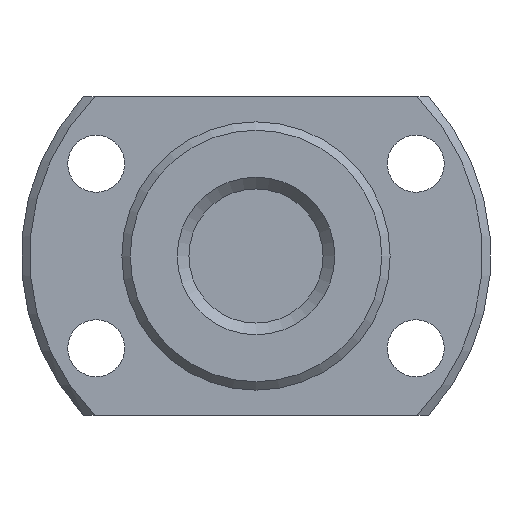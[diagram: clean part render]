
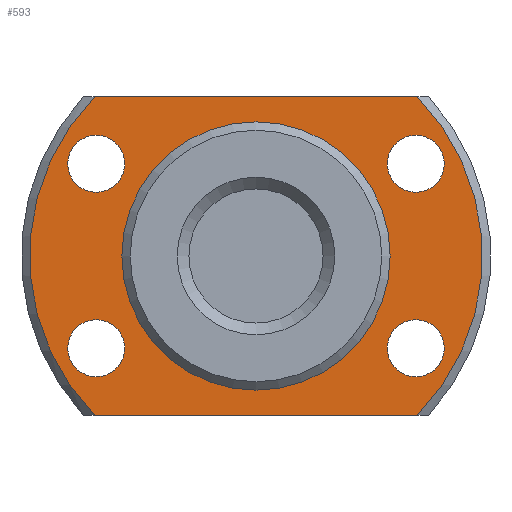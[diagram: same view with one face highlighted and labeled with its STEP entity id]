
A CAD part, left-side view. The second image highlights one B-rep face of the part: STEP entity #593.
In plain terms, the highlighted planar face has unit normal (-1, 0, 0) as drawn and (1, 0, 0) by its records, which use the part's own axes.
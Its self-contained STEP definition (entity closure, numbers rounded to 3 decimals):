
#57=LINE('',#1024,#73);
#58=LINE('',#1028,#74);
#73=VECTOR('',#847,1000.);
#74=VECTOR('',#850,1000.);
#153=ORIENTED_EDGE('',*,*,#262,.T.);
#154=ORIENTED_EDGE('',*,*,#263,.T.);
#155=ORIENTED_EDGE('',*,*,#264,.T.);
#156=ORIENTED_EDGE('',*,*,#265,.T.);
#157=ORIENTED_EDGE('',*,*,#266,.F.);
#158=ORIENTED_EDGE('',*,*,#267,.T.);
#159=ORIENTED_EDGE('',*,*,#268,.T.);
#160=ORIENTED_EDGE('',*,*,#269,.T.);
#161=ORIENTED_EDGE('',*,*,#270,.T.);
#262=EDGE_CURVE('',#325,#325,#374,.F.);
#263=EDGE_CURVE('',#326,#326,#375,.F.);
#264=EDGE_CURVE('',#327,#327,#376,.F.);
#265=EDGE_CURVE('',#328,#328,#377,.F.);
#266=EDGE_CURVE('',#329,#329,#378,.T.);
#267=EDGE_CURVE('',#330,#331,#379,.T.);
#268=EDGE_CURVE('',#331,#332,#57,.T.);
#269=EDGE_CURVE('',#332,#333,#380,.T.);
#270=EDGE_CURVE('',#333,#330,#58,.T.);
#325=VERTEX_POINT('',#1012);
#326=VERTEX_POINT('',#1014);
#327=VERTEX_POINT('',#1016);
#328=VERTEX_POINT('',#1018);
#329=VERTEX_POINT('',#1020);
#330=VERTEX_POINT('',#1022);
#331=VERTEX_POINT('',#1023);
#332=VERTEX_POINT('',#1025);
#333=VERTEX_POINT('',#1027);
#374=CIRCLE('',#688,1.7);
#375=CIRCLE('',#689,1.7);
#376=CIRCLE('',#690,1.7);
#377=CIRCLE('',#691,1.7);
#378=CIRCLE('',#692,7.75);
#379=CIRCLE('',#693,13.5);
#380=CIRCLE('',#694,13.5);
#433=EDGE_LOOP('',(#153));
#434=EDGE_LOOP('',(#154));
#435=EDGE_LOOP('',(#155));
#436=EDGE_LOOP('',(#156));
#437=EDGE_LOOP('',(#157));
#438=EDGE_LOOP('',(#158,#159,#160,#161));
#513=FACE_BOUND('',#433,.T.);
#514=FACE_BOUND('',#434,.T.);
#515=FACE_BOUND('',#435,.T.);
#516=FACE_BOUND('',#436,.T.);
#517=FACE_BOUND('',#437,.T.);
#518=FACE_BOUND('',#438,.T.);
#566=PLANE('',#687);
#593=ADVANCED_FACE('',(#513,#514,#515,#516,#517,#518),#566,.T.);
#687=AXIS2_PLACEMENT_3D('',#1010,#833,#834);
#688=AXIS2_PLACEMENT_3D('',#1011,#835,#836);
#689=AXIS2_PLACEMENT_3D('',#1013,#837,#838);
#690=AXIS2_PLACEMENT_3D('',#1015,#839,#840);
#691=AXIS2_PLACEMENT_3D('',#1017,#841,#842);
#692=AXIS2_PLACEMENT_3D('',#1019,#843,#844);
#693=AXIS2_PLACEMENT_3D('',#1021,#845,#846);
#694=AXIS2_PLACEMENT_3D('',#1026,#848,#849);
#833=DIRECTION('',(1.,0.,0.));
#834=DIRECTION('',(0.,0.,-1.));
#835=DIRECTION('',(1.,0.,0.));
#836=DIRECTION('',(0.,0.,-1.));
#837=DIRECTION('',(1.,0.,0.));
#838=DIRECTION('',(0.,0.,-1.));
#839=DIRECTION('',(1.,0.,0.));
#840=DIRECTION('',(0.,0.,-1.));
#841=DIRECTION('',(1.,0.,0.));
#842=DIRECTION('',(0.,0.,-1.));
#843=DIRECTION('',(1.,0.,0.));
#844=DIRECTION('',(0.,0.,-1.));
#845=DIRECTION('',(1.,0.,0.));
#846=DIRECTION('',(0.,0.,-1.));
#847=DIRECTION('',(0.,-1.,0.));
#848=DIRECTION('',(1.,0.,0.));
#849=DIRECTION('',(0.,0.,-1.));
#850=DIRECTION('',(0.,1.,0.));
#1010=CARTESIAN_POINT('',(6.,7.75,0.));
#1011=CARTESIAN_POINT('',(6.,9.526,5.5));
#1012=CARTESIAN_POINT('',(6.,9.526,3.8));
#1013=CARTESIAN_POINT('',(6.,-9.526,-5.5));
#1014=CARTESIAN_POINT('',(6.,-9.526,-7.2));
#1015=CARTESIAN_POINT('',(6.,-9.526,5.5));
#1016=CARTESIAN_POINT('',(6.,-9.526,3.8));
#1017=CARTESIAN_POINT('',(6.,9.526,-5.5));
#1018=CARTESIAN_POINT('',(6.,9.526,-7.2));
#1019=CARTESIAN_POINT('',(6.,0.,0.));
#1020=CARTESIAN_POINT('',(6.,0.,-7.75));
#1021=CARTESIAN_POINT('',(6.,0.,0.));
#1022=CARTESIAN_POINT('',(6.,9.592,-9.5));
#1023=CARTESIAN_POINT('',(6.,9.592,9.5));
#1024=CARTESIAN_POINT('',(6.,7.75,9.5));
#1025=CARTESIAN_POINT('',(6.,-9.592,9.5));
#1026=CARTESIAN_POINT('',(6.,0.,0.));
#1027=CARTESIAN_POINT('',(6.,-9.592,-9.5));
#1028=CARTESIAN_POINT('',(6.,7.75,-9.5));
